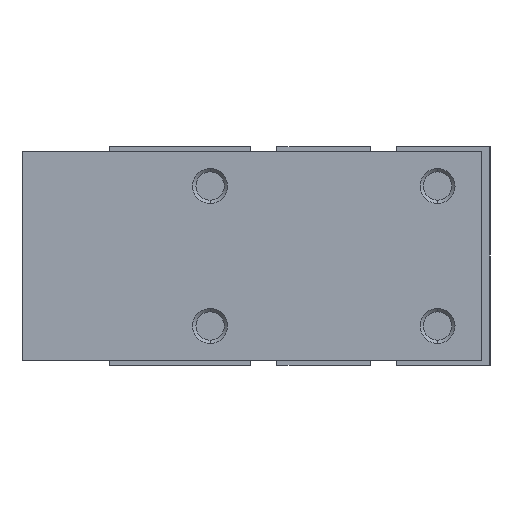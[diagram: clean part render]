
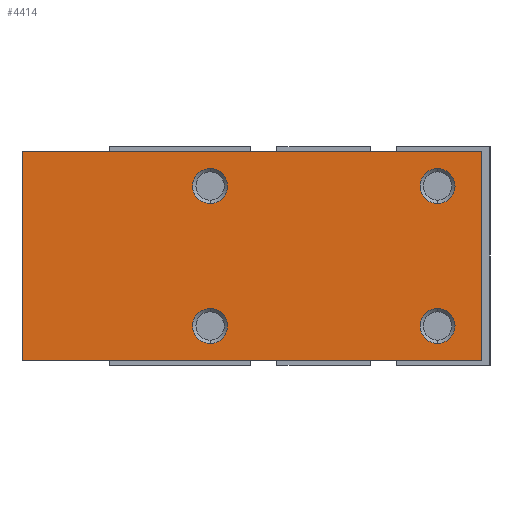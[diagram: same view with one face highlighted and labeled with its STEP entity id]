
A CAD part, left-side view. The second image highlights one B-rep face of the part: STEP entity #4414.
In plain terms, the highlighted planar face has unit normal (-1, 0, 0).
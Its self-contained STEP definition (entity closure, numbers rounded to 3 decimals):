
#106 = EDGE_CURVE ( 'NONE', #1842, #1486, #3734, .T. ) ;
#116 = FACE_BOUND ( 'NONE', #5087, .T. ) ;
#386 = ORIENTED_EDGE ( 'NONE', *, *, #4794, .T. ) ;
#435 = LINE ( 'NONE', #3859, #2627 ) ;
#498 = DIRECTION ( 'NONE',  ( 0., 0., -1. ) ) ;
#583 = FACE_OUTER_BOUND ( 'NONE', #604, .T. ) ;
#604 = EDGE_LOOP ( 'NONE', ( #386, #5007, #1812, #1420 ) ) ;
#654 = ORIENTED_EDGE ( 'NONE', *, *, #2008, .F. ) ;
#658 = AXIS2_PLACEMENT_3D ( 'NONE', #4572, #3656, #6109 ) ;
#710 = EDGE_CURVE ( 'NONE', #4421, #3437, #4832, .T. ) ;
#811 = DIRECTION ( 'NONE',  ( 0., 0., -1. ) ) ;
#910 = DIRECTION ( 'NONE',  ( 0., 0., 1. ) ) ;
#918 = DIRECTION ( 'NONE',  ( -1., 0., 0. ) ) ;
#968 = CARTESIAN_POINT ( 'NONE',  ( -14., 13., 10. ) ) ;
#986 = AXIS2_PLACEMENT_3D ( 'NONE', #2545, #1638, #3587 ) ;
#988 = VERTEX_POINT ( 'NONE', #1271 ) ;
#990 = EDGE_CURVE ( 'NONE', #3612, #2425, #3134, .T. ) ;
#1027 = ORIENTED_EDGE ( 'NONE', *, *, #3887, .F. ) ;
#1052 = CARTESIAN_POINT ( 'NONE',  ( -14., 13., 8. ) ) ;
#1058 = CARTESIAN_POINT ( 'NONE',  ( -14., 34.5, 12. ) ) ;
#1077 = CARTESIAN_POINT ( 'NONE',  ( -14., -13., -10. ) ) ;
#1146 = CIRCLE ( 'NONE', #3233, 2. ) ;
#1243 = AXIS2_PLACEMENT_3D ( 'NONE', #1052, #2447, #1922 ) ;
#1271 = CARTESIAN_POINT ( 'NONE',  ( -14., 34.5, -12. ) ) ;
#1300 = CARTESIAN_POINT ( 'NONE',  ( -14., -13., -6. ) ) ;
#1410 = DIRECTION ( 'NONE',  ( 0., 0., 1. ) ) ;
#1420 = ORIENTED_EDGE ( 'NONE', *, *, #2576, .T. ) ;
#1437 = CARTESIAN_POINT ( 'NONE',  ( -14., -13., 8. ) ) ;
#1486 = VERTEX_POINT ( 'NONE', #2168 ) ;
#1561 = VECTOR ( 'NONE', #2459, 1000. ) ;
#1574 = FACE_BOUND ( 'NONE', #3889, .T. ) ;
#1630 = DIRECTION ( 'NONE',  ( 0., 0., 1. ) ) ;
#1638 = DIRECTION ( 'NONE',  ( -1., 0., 0. ) ) ;
#1729 = DIRECTION ( 'NONE',  ( 0., 0., 1. ) ) ;
#1747 = CARTESIAN_POINT ( 'NONE',  ( -14., -18., 12. ) ) ;
#1795 = AXIS2_PLACEMENT_3D ( 'NONE', #4302, #4274, #1410 ) ;
#1812 = ORIENTED_EDGE ( 'NONE', *, *, #710, .F. ) ;
#1820 = CARTESIAN_POINT ( 'NONE',  ( -14., 34.5, -12. ) ) ;
#1842 = VERTEX_POINT ( 'NONE', #968 ) ;
#1912 = CIRCLE ( 'NONE', #1795, 2. ) ;
#1922 = DIRECTION ( 'NONE',  ( 0., 0., 1. ) ) ;
#1939 = CARTESIAN_POINT ( 'NONE',  ( -14., -13., 10. ) ) ;
#2007 = AXIS2_PLACEMENT_3D ( 'NONE', #3856, #2884, #2414 ) ;
#2008 = EDGE_CURVE ( 'NONE', #6112, #3021, #3219, .T. ) ;
#2048 = CARTESIAN_POINT ( 'NONE',  ( -14., -13., -8. ) ) ;
#2069 = ORIENTED_EDGE ( 'NONE', *, *, #5947, .F. ) ;
#2168 = CARTESIAN_POINT ( 'NONE',  ( -14., 13., 6. ) ) ;
#2414 = DIRECTION ( 'NONE',  ( 0., 1., 0. ) ) ;
#2425 = VERTEX_POINT ( 'NONE', #4578 ) ;
#2447 = DIRECTION ( 'NONE',  ( -1., 0., 0. ) ) ;
#2459 = DIRECTION ( 'NONE',  ( 0., -1., 0. ) ) ;
#2545 = CARTESIAN_POINT ( 'NONE',  ( -14., -13., -8. ) ) ;
#2576 = EDGE_CURVE ( 'NONE', #4421, #988, #435, .T. ) ;
#2610 = LINE ( 'NONE', #1747, #4818 ) ;
#2627 = VECTOR ( 'NONE', #498, 1000. ) ;
#2786 = DIRECTION ( 'NONE',  ( 0., -1., 0. ) ) ;
#2884 = DIRECTION ( 'NONE',  ( 1., 0., 0. ) ) ;
#2984 = CARTESIAN_POINT ( 'NONE',  ( -14., -18., -12. ) ) ;
#3021 = VERTEX_POINT ( 'NONE', #1077 ) ;
#3134 = CIRCLE ( 'NONE', #658, 2. ) ;
#3179 = AXIS2_PLACEMENT_3D ( 'NONE', #1437, #6115, #910 ) ;
#3203 = EDGE_CURVE ( 'NONE', #5865, #5578, #1146, .T. ) ;
#3219 = CIRCLE ( 'NONE', #5823, 2. ) ;
#3233 = AXIS2_PLACEMENT_3D ( 'NONE', #6162, #918, #3668 ) ;
#3418 = CARTESIAN_POINT ( 'NONE',  ( -14., 34.5, 12. ) ) ;
#3437 = VERTEX_POINT ( 'NONE', #4942 ) ;
#3465 = DIRECTION ( 'NONE',  ( -1., 0., 0. ) ) ;
#3467 = FACE_BOUND ( 'NONE', #3659, .T. ) ;
#3520 = ORIENTED_EDGE ( 'NONE', *, *, #990, .F. ) ;
#3537 = CARTESIAN_POINT ( 'NONE',  ( -14., 13., -8. ) ) ;
#3587 = DIRECTION ( 'NONE',  ( 0., 0., 1. ) ) ;
#3612 = VERTEX_POINT ( 'NONE', #3984 ) ;
#3656 = DIRECTION ( 'NONE',  ( -1., 0., 0. ) ) ;
#3659 = EDGE_LOOP ( 'NONE', ( #4528, #1027 ) ) ;
#3668 = DIRECTION ( 'NONE',  ( 0., 0., 1. ) ) ;
#3675 = VERTEX_POINT ( 'NONE', #2984 ) ;
#3678 = CIRCLE ( 'NONE', #3179, 2. ) ;
#3734 = CIRCLE ( 'NONE', #1243, 2. ) ;
#3856 = CARTESIAN_POINT ( 'NONE',  ( -14., 34.5, 12. ) ) ;
#3859 = CARTESIAN_POINT ( 'NONE',  ( -14., 34.5, 12. ) ) ;
#3868 = EDGE_CURVE ( 'NONE', #5578, #5865, #3678, .T. ) ;
#3887 = EDGE_CURVE ( 'NONE', #1486, #1842, #1912, .T. ) ;
#3889 = EDGE_LOOP ( 'NONE', ( #654, #2069 ) ) ;
#3904 = EDGE_LOOP ( 'NONE', ( #3520, #5756 ) ) ;
#3984 = CARTESIAN_POINT ( 'NONE',  ( -14., 13., -6. ) ) ;
#4148 = EDGE_CURVE ( 'NONE', #2425, #3612, #5466, .T. ) ;
#4175 = AXIS2_PLACEMENT_3D ( 'NONE', #3537, #4978, #1729 ) ;
#4274 = DIRECTION ( 'NONE',  ( -1., 0., 0. ) ) ;
#4277 = ORIENTED_EDGE ( 'NONE', *, *, #3203, .F. ) ;
#4302 = CARTESIAN_POINT ( 'NONE',  ( -14., 13., 8. ) ) ;
#4414 = ADVANCED_FACE ( 'NONE', ( #583, #4853, #116, #1574, #3467 ), #5290, .F. ) ;
#4421 = VERTEX_POINT ( 'NONE', #1058 ) ;
#4528 = ORIENTED_EDGE ( 'NONE', *, *, #106, .F. ) ;
#4559 = CIRCLE ( 'NONE', #986, 2. ) ;
#4572 = CARTESIAN_POINT ( 'NONE',  ( -14., 13., -8. ) ) ;
#4578 = CARTESIAN_POINT ( 'NONE',  ( -14., 13., -10. ) ) ;
#4784 = VECTOR ( 'NONE', #2786, 1000. ) ;
#4794 = EDGE_CURVE ( 'NONE', #988, #3675, #6100, .T. ) ;
#4818 = VECTOR ( 'NONE', #811, 1000. ) ;
#4832 = LINE ( 'NONE', #3418, #1561 ) ;
#4853 = FACE_BOUND ( 'NONE', #3904, .T. ) ;
#4942 = CARTESIAN_POINT ( 'NONE',  ( -14., -18., 12. ) ) ;
#4978 = DIRECTION ( 'NONE',  ( -1., 0., 0. ) ) ;
#5007 = ORIENTED_EDGE ( 'NONE', *, *, #5812, .F. ) ;
#5087 = EDGE_LOOP ( 'NONE', ( #4277, #5258 ) ) ;
#5258 = ORIENTED_EDGE ( 'NONE', *, *, #3868, .F. ) ;
#5290 = PLANE ( 'NONE',  #2007 ) ;
#5453 = CARTESIAN_POINT ( 'NONE',  ( -14., -13., 6. ) ) ;
#5466 = CIRCLE ( 'NONE', #4175, 2. ) ;
#5578 = VERTEX_POINT ( 'NONE', #5453 ) ;
#5756 = ORIENTED_EDGE ( 'NONE', *, *, #4148, .F. ) ;
#5812 = EDGE_CURVE ( 'NONE', #3437, #3675, #2610, .T. ) ;
#5823 = AXIS2_PLACEMENT_3D ( 'NONE', #2048, #3465, #1630 ) ;
#5865 = VERTEX_POINT ( 'NONE', #1939 ) ;
#5947 = EDGE_CURVE ( 'NONE', #3021, #6112, #4559, .T. ) ;
#6100 = LINE ( 'NONE', #1820, #4784 ) ;
#6109 = DIRECTION ( 'NONE',  ( 0., 0., 1. ) ) ;
#6112 = VERTEX_POINT ( 'NONE', #1300 ) ;
#6115 = DIRECTION ( 'NONE',  ( -1., 0., 0. ) ) ;
#6162 = CARTESIAN_POINT ( 'NONE',  ( -14., -13., 8. ) ) ;
